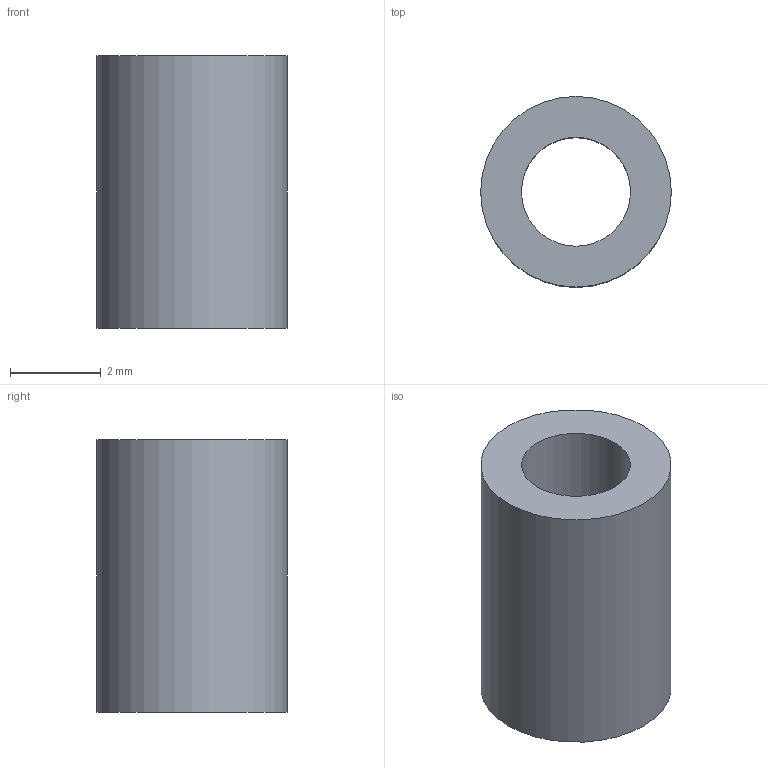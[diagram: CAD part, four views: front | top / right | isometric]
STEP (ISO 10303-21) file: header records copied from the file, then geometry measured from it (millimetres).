
FILE_DESCRIPTION(('Open CASCADE Model'),'2;1');
FILE_NAME('Open CASCADE Shape Model','2026-10-02T07:52:38',('Author'),( 'Open CASCADE'),'Open CASCADE STEP processor 7.8','Open CASCADE 7.8' ,'Unknown');
FILE_SCHEMA(('AUTOMOTIVE_DESIGN { 1 0 10303 214 1 1 1 1 }'));
Length unit declared in the file: millimetre
Products named in the file (1): Open CASCADE STEP translator 7.8 4
Bounding box: 4.2 x 4.2 x 6 mm (x, y, z)
Volume: 56 mm3; surface area: 143.1 mm2
Topology: 1 solids, 1 shells, 4 faces, 6 edges, 4 vertices
Faces by surface type: cylinder 2, plane 2
Full cylindrical faces by diameter (mm): 2.4 x1, 4.2 x1
Entity records: 186 total; most frequent: DIRECTION 32, CARTESIAN_POINT 27, ORIENTED_EDGE 12, PCURVE 12, DEFINITIONAL_REPRESENTATION 12, LINE 10, VECTOR 10, AXIS2_PLACEMENT_3D 9
